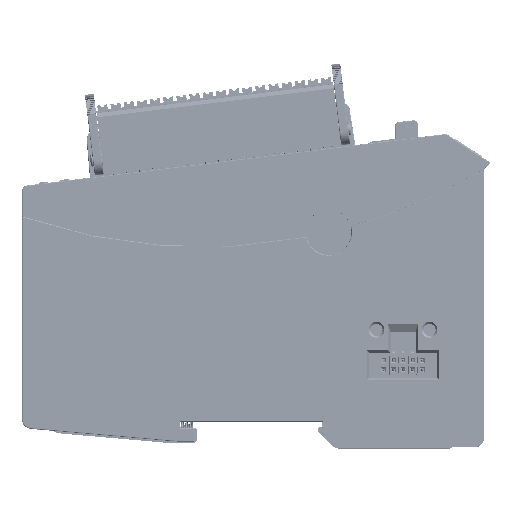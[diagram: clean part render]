
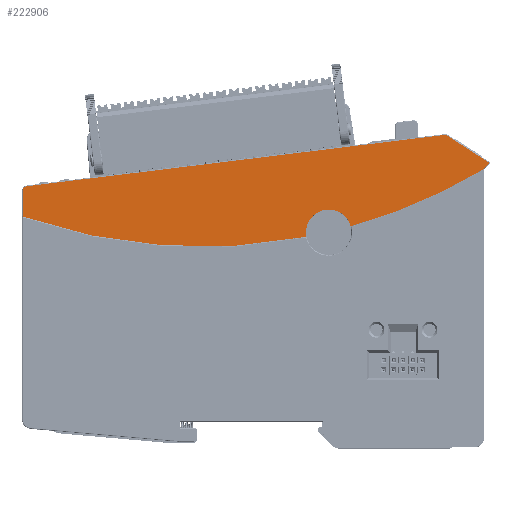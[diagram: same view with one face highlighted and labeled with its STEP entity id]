
A CAD part, top view. The second image highlights one B-rep face of the part: STEP entity #222906.
In plain terms, the highlighted planar face has unit normal (0, 0, 1).
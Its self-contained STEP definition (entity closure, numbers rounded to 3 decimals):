
#220051=AXIS2_PLACEMENT_3D('Circle Axis2P3D',#220049,#220050,$) ;
#220076=AXIS2_PLACEMENT_3D('Circle Axis2P3D',#220074,#220075,$) ;
#222743=AXIS2_PLACEMENT_3D('Circle Axis2P3D',#222741,#222742,$) ;
#222767=AXIS2_PLACEMENT_3D('Circle Axis2P3D',#222765,#222766,$) ;
#222780=AXIS2_PLACEMENT_3D('Plane Axis2P3D',#222777,#222778,#222779) ;
#222810=AXIS2_PLACEMENT_3D('Circle Axis2P3D',#222808,#222809,$) ;
#222842=AXIS2_PLACEMENT_3D('Circle Axis2P3D',#222840,#222841,$) ;
#222849=AXIS2_PLACEMENT_3D('Circle Axis2P3D',#222847,#222848,$) ;
#222885=AXIS2_PLACEMENT_3D('Circle Axis2P3D',#222883,#222884,$) ;
#178197=CARTESIAN_POINT('Vertex',(109.882,76.012,23.3)) ;
#178204=CARTESIAN_POINT('Vertex',(-0.258,62.488,23.3)) ;
#178207=CARTESIAN_POINT('Line Origine',(60.199,69.912,23.3)) ;
#220025=CARTESIAN_POINT('Vertex',(120.249,66.935,23.3)) ;
#220046=CARTESIAN_POINT('Vertex',(120.3,66.949,23.3)) ;
#220049=CARTESIAN_POINT('Axis2P3D Location',(120.3,66.849,23.3)) ;
#220071=CARTESIAN_POINT('Vertex',(120.399,67.159,23.3)) ;
#220074=CARTESIAN_POINT('Axis2P3D Location',(120.6,66.936,23.3)) ;
#222738=CARTESIAN_POINT('Vertex',(-1.4,61.198,23.3)) ;
#222741=CARTESIAN_POINT('Axis2P3D Location',(-0.1,61.198,23.3)) ;
#222762=CARTESIAN_POINT('Vertex',(110.749,75.812,23.3)) ;
#222765=CARTESIAN_POINT('Axis2P3D Location',(110.041,74.722,23.3)) ;
#222777=CARTESIAN_POINT('Axis2P3D Location',(-1.6,-1.675,23.3)) ;
#222782=CARTESIAN_POINT('Line Origine',(121.058,67.752,23.3)) ;
#222786=CARTESIAN_POINT('Vertex',(121.716,68.345,23.3)) ;
#222789=CARTESIAN_POINT('Line Origine',(121.673,68.545,23.3)) ;
#222793=CARTESIAN_POINT('Vertex',(121.631,68.745,23.3)) ;
#222796=CARTESIAN_POINT('Line Origine',(116.19,72.278,23.3)) ;
#222801=CARTESIAN_POINT('Line Origine',(-1.4,57.827,23.3)) ;
#222805=CARTESIAN_POINT('Vertex',(-1.4,54.456,23.3)) ;
#222808=CARTESIAN_POINT('Axis2P3D Location',(46.007,191.487,23.3)) ;
#222812=CARTESIAN_POINT('Vertex',(73.331,49.085,23.3)) ;
#222816=CARTESIAN_POINT('Control Point',(73.331,49.085,23.3)) ;
#222817=CARTESIAN_POINT('Control Point',(73.344,49.087,23.3)) ;
#222818=CARTESIAN_POINT('Control Point',(73.357,49.088,23.3)) ;
#222819=CARTESIAN_POINT('Control Point',(73.37,49.089,23.3)) ;
#222820=CARTESIAN_POINT('Control Point',(73.396,49.087,23.3)) ;
#222821=CARTESIAN_POINT('Control Point',(73.421,49.082,23.3)) ;
#222822=CARTESIAN_POINT('Control Point',(73.433,49.078,23.3)) ;
#222823=CARTESIAN_POINT('Control Point',(73.457,49.069,23.3)) ;
#222824=CARTESIAN_POINT('Control Point',(73.48,49.055,23.3)) ;
#222825=CARTESIAN_POINT('Control Point',(73.49,49.048,23.3)) ;
#222826=CARTESIAN_POINT('Control Point',(73.51,49.031,23.3)) ;
#222827=CARTESIAN_POINT('Control Point',(73.527,49.012,23.3)) ;
#222828=CARTESIAN_POINT('Control Point',(73.535,49.001,23.3)) ;
#222829=CARTESIAN_POINT('Control Point',(73.545,48.984,23.3)) ;
#222830=CARTESIAN_POINT('Control Point',(73.553,48.967,23.3)) ;
#222831=CARTESIAN_POINT('Control Point',(73.555,48.961,23.3)) ;
#222832=CARTESIAN_POINT('Control Point',(73.559,48.952,23.3)) ;
#222833=CARTESIAN_POINT('Control Point',(73.561,48.943,23.3)) ;
#222834=CARTESIAN_POINT('Control Point',(73.562,48.94,23.3)) ;
#222835=CARTESIAN_POINT('Control Point',(73.563,48.937,23.3)) ;
#222836=CARTESIAN_POINT('Control Point',(73.563,48.935,23.3)) ;
#222837=CARTESIAN_POINT('Vertex',(73.563,48.935,23.3)) ;
#222840=CARTESIAN_POINT('Axis2P3D Location',(79.4,50.325,23.3)) ;
#222844=CARTESIAN_POINT('Vertex',(73.4,50.325,23.3)) ;
#222847=CARTESIAN_POINT('Axis2P3D Location',(79.4,50.325,23.3)) ;
#222851=CARTESIAN_POINT('Vertex',(85.194,51.883,23.3)) ;
#222855=CARTESIAN_POINT('Control Point',(85.194,51.883,23.3)) ;
#222856=CARTESIAN_POINT('Control Point',(85.199,51.864,23.3)) ;
#222857=CARTESIAN_POINT('Control Point',(85.204,51.845,23.3)) ;
#222858=CARTESIAN_POINT('Control Point',(85.209,51.826,23.3)) ;
#222859=CARTESIAN_POINT('Control Point',(85.214,51.807,23.3)) ;
#222860=CARTESIAN_POINT('Control Point',(85.219,51.788,23.3)) ;
#222861=CARTESIAN_POINT('Vertex',(85.219,51.788,23.3)) ;
#222865=CARTESIAN_POINT('Control Point',(85.219,51.788,23.3)) ;
#222866=CARTESIAN_POINT('Control Point',(85.217,51.797,23.3)) ;
#222867=CARTESIAN_POINT('Control Point',(85.215,51.807,23.3)) ;
#222868=CARTESIAN_POINT('Control Point',(85.215,51.816,23.3)) ;
#222869=CARTESIAN_POINT('Control Point',(85.217,51.835,23.3)) ;
#222870=CARTESIAN_POINT('Control Point',(85.223,51.852,23.3)) ;
#222871=CARTESIAN_POINT('Control Point',(85.227,51.861,23.3)) ;
#222872=CARTESIAN_POINT('Control Point',(85.238,51.877,23.3)) ;
#222873=CARTESIAN_POINT('Control Point',(85.251,51.89,23.3)) ;
#222874=CARTESIAN_POINT('Control Point',(85.259,51.896,23.3)) ;
#222875=CARTESIAN_POINT('Control Point',(85.269,51.902,23.3)) ;
#222876=CARTESIAN_POINT('Control Point',(85.28,51.906,23.3)) ;
#222877=CARTESIAN_POINT('Control Point',(85.283,51.907,23.3)) ;
#222878=CARTESIAN_POINT('Control Point',(85.286,51.908,23.3)) ;
#222879=CARTESIAN_POINT('Control Point',(85.289,51.909,23.3)) ;
#222880=CARTESIAN_POINT('Vertex',(85.289,51.909,23.3)) ;
#222883=CARTESIAN_POINT('Axis2P3D Location',(46.007,191.487,23.3)) ;
#178208=DIRECTION('Vector Direction',(-0.993,-0.122,0.)) ;
#220050=DIRECTION('Axis2P3D Direction',(0.,0.,1.)) ;
#220075=DIRECTION('Axis2P3D Direction',(0.,0.,1.)) ;
#222742=DIRECTION('Axis2P3D Direction',(0.,0.,1.)) ;
#222766=DIRECTION('Axis2P3D Direction',(0.,0.,1.)) ;
#222778=DIRECTION('Axis2P3D Direction',(0.,0.,1.)) ;
#222779=DIRECTION('Axis2P3D XDirection',(1.,0.,0.)) ;
#222783=DIRECTION('Vector Direction',(0.743,0.669,0.)) ;
#222790=DIRECTION('Vector Direction',(-0.208,0.978,0.)) ;
#222797=DIRECTION('Vector Direction',(0.839,-0.545,0.)) ;
#222802=DIRECTION('Vector Direction',(0.,1.,0.)) ;
#222809=DIRECTION('Axis2P3D Direction',(0.,0.,1.)) ;
#222841=DIRECTION('Axis2P3D Direction',(0.,0.,1.)) ;
#222848=DIRECTION('Axis2P3D Direction',(0.,0.,1.)) ;
#222884=DIRECTION('Axis2P3D Direction',(0.,0.,1.)) ;
#178209=VECTOR('Line Direction',#178208,1.) ;
#222784=VECTOR('Line Direction',#222783,1.) ;
#222791=VECTOR('Line Direction',#222790,1.) ;
#222798=VECTOR('Line Direction',#222797,1.) ;
#222803=VECTOR('Line Direction',#222802,1.) ;
#222889=ORIENTED_EDGE('',*,*,#220053,.F.) ;
#222890=ORIENTED_EDGE('',*,*,#220078,.T.) ;
#222891=ORIENTED_EDGE('',*,*,#222788,.T.) ;
#222892=ORIENTED_EDGE('',*,*,#222795,.F.) ;
#222893=ORIENTED_EDGE('',*,*,#222800,.T.) ;
#222894=ORIENTED_EDGE('',*,*,#222769,.T.) ;
#222895=ORIENTED_EDGE('',*,*,#178211,.T.) ;
#222896=ORIENTED_EDGE('',*,*,#222745,.T.) ;
#222897=ORIENTED_EDGE('',*,*,#222807,.T.) ;
#222898=ORIENTED_EDGE('',*,*,#222814,.T.) ;
#222899=ORIENTED_EDGE('',*,*,#222839,.F.) ;
#222900=ORIENTED_EDGE('',*,*,#222846,.F.) ;
#222901=ORIENTED_EDGE('',*,*,#222853,.F.) ;
#222902=ORIENTED_EDGE('',*,*,#222863,.T.) ;
#222903=ORIENTED_EDGE('',*,*,#222882,.F.) ;
#222904=ORIENTED_EDGE('',*,*,#222887,.T.) ;
#222906=ADVANCED_FACE('K\X2\00F6\X0\rper.2',(#222905),#222781,.T.) ;
#222815=B_SPLINE_CURVE_WITH_KNOTS('',5,(#222816,#222817,#222818,#222819,#222820,#222821,#222822,#222823,#222824,#222825,#222826,#222827,#222828,#222829,#222830,#222831,#222832,#222833,#222834,#222835,#222836),.UNSPECIFIED.,.F.,.U.,(6,3,3,3,3,3,6),(0.,0.091,0.182,0.274,0.365,0.41,0.431),.UNSPECIFIED.) ;
#222854=B_SPLINE_CURVE_WITH_KNOTS('',5,(#222855,#222856,#222857,#222858,#222859,#222860),.UNSPECIFIED.,.F.,.U.,(6,6),(0.,0.14),.UNSPECIFIED.) ;
#222864=B_SPLINE_CURVE_WITH_KNOTS('',5,(#222865,#222866,#222867,#222868,#222869,#222870,#222871,#222872,#222873,#222874,#222875,#222876,#222877,#222878,#222879),.UNSPECIFIED.,.F.,.U.,(6,3,3,3,6),(0.,0.055,0.11,0.166,0.183),.UNSPECIFIED.) ;
#220052=CIRCLE('generated circle',#220051,0.1) ;
#220077=CIRCLE('generated circle',#220076,0.3) ;
#222744=CIRCLE('generated circle',#222743,1.3) ;
#222768=CIRCLE('generated circle',#222767,1.3) ;
#222811=CIRCLE('generated circle',#222810,145.) ;
#222843=CIRCLE('generated circle',#222842,6.) ;
#222850=CIRCLE('generated circle',#222849,6.) ;
#222886=CIRCLE('generated circle',#222885,145.) ;
#178211=EDGE_CURVE('',#178198,#178205,#178210,.T.) ;
#220053=EDGE_CURVE('',#220047,#220026,#220052,.T.) ;
#220078=EDGE_CURVE('',#220047,#220072,#220077,.F.) ;
#222745=EDGE_CURVE('',#178205,#222739,#222744,.T.) ;
#222769=EDGE_CURVE('',#222763,#178198,#222768,.T.) ;
#222788=EDGE_CURVE('',#220072,#222787,#222785,.T.) ;
#222795=EDGE_CURVE('',#222794,#222787,#222792,.F.) ;
#222800=EDGE_CURVE('',#222794,#222763,#222799,.F.) ;
#222807=EDGE_CURVE('',#222739,#222806,#222804,.F.) ;
#222814=EDGE_CURVE('',#222806,#222813,#222811,.T.) ;
#222839=EDGE_CURVE('',#222838,#222813,#222815,.F.) ;
#222846=EDGE_CURVE('',#222845,#222838,#222843,.T.) ;
#222853=EDGE_CURVE('',#222852,#222845,#222850,.T.) ;
#222863=EDGE_CURVE('',#222852,#222862,#222854,.T.) ;
#222882=EDGE_CURVE('',#222881,#222862,#222864,.F.) ;
#222887=EDGE_CURVE('',#222881,#220026,#222886,.T.) ;
#222888=EDGE_LOOP('',(#222889,#222890,#222891,#222892,#222893,#222894,#222895,#222896,#222897,#222898,#222899,#222900,#222901,#222902,#222903,#222904)) ;
#222905=FACE_OUTER_BOUND('',#222888,.T.) ;
#178210=LINE('Line',#178207,#178209) ;
#222785=LINE('Line',#222782,#222784) ;
#222792=LINE('Line',#222789,#222791) ;
#222799=LINE('Line',#222796,#222798) ;
#222804=LINE('Line',#222801,#222803) ;
#222781=PLANE('Plane',#222780) ;
#178198=VERTEX_POINT('',#178197) ;
#178205=VERTEX_POINT('',#178204) ;
#220026=VERTEX_POINT('',#220025) ;
#220047=VERTEX_POINT('',#220046) ;
#220072=VERTEX_POINT('',#220071) ;
#222739=VERTEX_POINT('',#222738) ;
#222763=VERTEX_POINT('',#222762) ;
#222787=VERTEX_POINT('',#222786) ;
#222794=VERTEX_POINT('',#222793) ;
#222806=VERTEX_POINT('',#222805) ;
#222813=VERTEX_POINT('',#222812) ;
#222838=VERTEX_POINT('',#222837) ;
#222845=VERTEX_POINT('',#222844) ;
#222852=VERTEX_POINT('',#222851) ;
#222862=VERTEX_POINT('',#222861) ;
#222881=VERTEX_POINT('',#222880) ;
